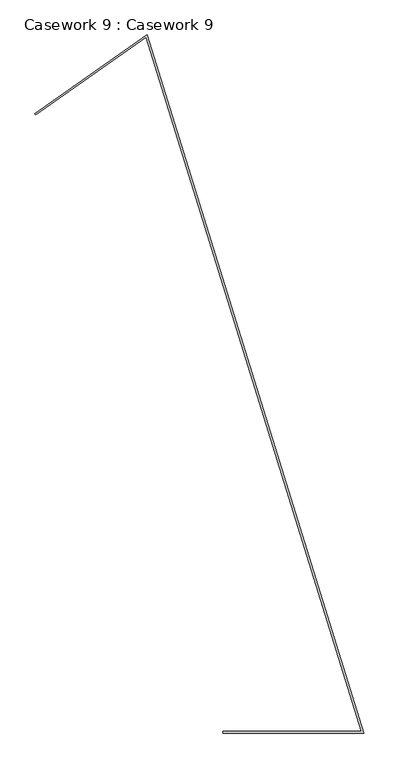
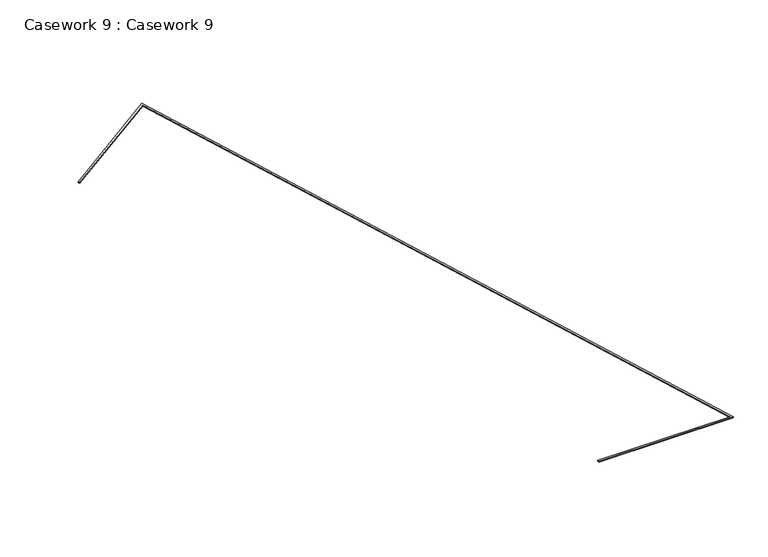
"""IFC4 building model written with IfcOpenShell, lengths in millimetres: furniture geometry, Casework 9 : Casework 9."""

from ifc_helpers import new_model, si_unit, origin, place, context, project, spatial, faceted_brep, source, transform, mapped, element, save


def casework_9_casework_9_728005be(model_context):
    return source(origin(), model_context, "Body", "Brep", [
        faceted_brep([(3792.0428557, -4318.2295472, 3196.4644661), (3792.0428557, -4370.7295472, 3196.4644661), (3792.0428557, -4370.7295472, 3236.4644661), (3792.0428557, -4314.6940133, 3236.4644661), (3792.0428557, -4314.6940133, 3200.0), (8677.2616966, -4318.2295472, 3196.4644661), (1093.8900609, 20089.4860334, 3196.4644661), (-2794.3605062, 17366.9036759, 3196.4644661), (-2824.4732692, 17409.9091582, 3196.4644661), (1122.6879403, 20173.7411916, 3196.4644661), (8748.548812, -4370.7295472, 3196.4644661), (8748.548812, -4370.7295472, 3236.4644661), (1122.6879403, 20173.7411916, 3236.4644661), (-2824.4732692, 17409.9091582, 3236.4644661), (-2792.3326073, 17364.0075361, 3236.4644661), (1091.9507108, 20083.8119959, 3236.4644661), (8672.4609725, -4314.6940133, 3236.4644661), (8672.4609725, -4314.6940133, 3200.0), (1091.9507108, 20083.8119959, 3200.0), (-2792.3326073, 17364.0075361, 3200.0)], [[[0, 1, 2, 3, 4]], [[1, 0, 5, 6, 7, 8, 9, 10]], [[2, 1, 10, 11]], [[3, 2, 11, 12, 13, 14, 15, 16]], [[4, 3, 16, 17]], [[0, 4, 17, 5]], [[11, 10, 9, 12]], [[17, 16, 15, 18]], [[5, 17, 18, 6]], [[7, 19, 14, 13, 8]], [[12, 9, 8, 13]], [[18, 15, 14, 19]], [[6, 18, 19, 7]]]),
    ])


if __name__ == "__main__":
    model = new_model("IFC4")
    model_context = context("Model", 3, world=origin())
    ifc_project = project(units=[si_unit("LENGTHUNIT", "METRE", prefix="MILLI")], contexts=[model_context])
    site = spatial("IfcSite", under=ifc_project)
    building = spatial("IfcBuilding", under=site)
    placement = place(None, origin())
    casework_9_casework_9_shape = casework_9_casework_9_728005be(model_context)
    element("IfcFurniture", 1, ObjectType="Casework 9 : Casework 9", at=placement, inside=building, context=model_context, shape_type="MappedRepresentation", body=[
        mapped(casework_9_casework_9_shape, transform((0.0, 0.0, 0.0), x_axis=(1.0, 0.0, 0.0), y_axis=(0.0, 1.0, 0.0), z_axis=(0.0, 0.0, 1.0))),
    ])
    save(model, "model.ifc")
